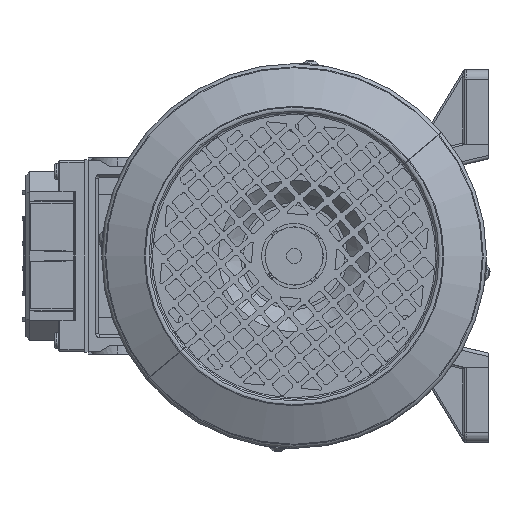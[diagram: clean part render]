
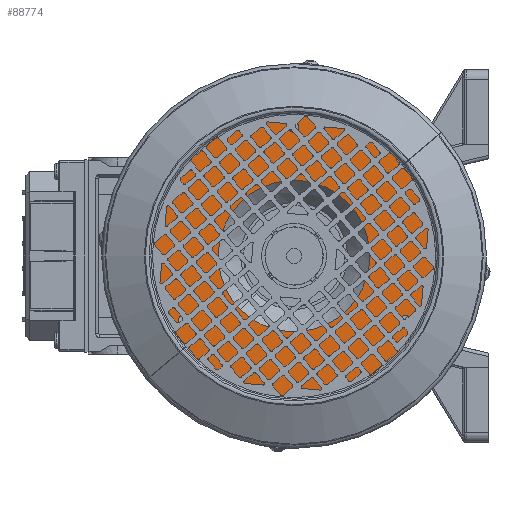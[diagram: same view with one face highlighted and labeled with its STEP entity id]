
A CAD part, left-side view. The second image highlights one B-rep face of the part: STEP entity #88774.
In plain terms, the highlighted planar face has unit normal (-1, 0, 0) as drawn and (0, 1, 0) by its records, which use the part's own axes.
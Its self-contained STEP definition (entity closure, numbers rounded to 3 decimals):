
#142 = CIRCLE ( 'NONE', #13714, 2.5 ) ;
#3993 = VERTEX_POINT ( 'NONE', #75739 ) ;
#4015 = CARTESIAN_POINT ( 'NONE',  ( -46.669, 44., -46.669 ) ) ;
#8732 = EDGE_CURVE ( 'NONE', #75903, #83189, #109008, .T. ) ;
#9618 = ORIENTED_EDGE ( 'NONE', *, *, #84662, .T. ) ;
#10420 = ORIENTED_EDGE ( 'NONE', *, *, #94962, .F. ) ;
#10504 = CARTESIAN_POINT ( 'NONE',  ( -17.082, 44., 61.251 ) ) ;
#12123 = ORIENTED_EDGE ( 'NONE', *, *, #42199, .F. ) ;
#12738 = DIRECTION ( 'NONE',  ( 0., 0., 1. ) ) ;
#13205 = EDGE_LOOP ( 'NONE', ( #9618, #80707 ) ) ;
#13714 = AXIS2_PLACEMENT_3D ( 'NONE', #4015, #64641, #12738 ) ;
#16964 = ORIENTED_EDGE ( 'NONE', *, *, #100721, .F. ) ;
#22521 = DIRECTION ( 'NONE',  ( 0., 1., 0. ) ) ;
#22723 = FACE_BOUND ( 'NONE', #52144, .T. ) ;
#23672 = CARTESIAN_POINT ( 'NONE',  ( -46.669, 44., -44.169 ) ) ;
#23989 = CARTESIAN_POINT ( 'NONE',  ( 39., 44., 0. ) ) ;
#24237 = VERTEX_POINT ( 'NONE', #23672 ) ;
#24885 = CARTESIAN_POINT ( 'NONE',  ( 0., 44., -39. ) ) ;
#24906 = CIRCLE ( 'NONE', #100535, 77.5 ) ;
#26621 = AXIS2_PLACEMENT_3D ( 'NONE', #35512, #96127, #44251 ) ;
#30136 = CARTESIAN_POINT ( 'NONE',  ( 0., 44., 0. ) ) ;
#30499 = AXIS2_PLACEMENT_3D ( 'NONE', #23989, #84641, #32760 ) ;
#31214 = CIRCLE ( 'NONE', #96525, 2.5 ) ;
#32632 = CIRCLE ( 'NONE', #26621, 2.5 ) ;
#32760 = DIRECTION ( 'NONE',  ( 0., 0., -1. ) ) ;
#32812 = VERTEX_POINT ( 'NONE', #36560 ) ;
#33147 = AXIS2_PLACEMENT_3D ( 'NONE', #90647, #38751, #99411 ) ;
#33544 = CARTESIAN_POINT ( 'NONE',  ( 0., 44., 0. ) ) ;
#33644 = EDGE_CURVE ( 'NONE', #3993, #63371, #94351, .T. ) ;
#35330 = CARTESIAN_POINT ( 'NONE',  ( 63.751, 44., -17.082 ) ) ;
#35512 = CARTESIAN_POINT ( 'NONE',  ( -46.669, 44., -46.669 ) ) ;
#35817 = CIRCLE ( 'NONE', #80119, 39. ) ;
#36560 = CARTESIAN_POINT ( 'NONE',  ( -46.669, 44., -49.169 ) ) ;
#37402 = CARTESIAN_POINT ( 'NONE',  ( 0., 44., -77.5 ) ) ;
#38751 = DIRECTION ( 'NONE',  ( 0., 1., 0. ) ) ;
#38831 = DIRECTION ( 'NONE',  ( 0., 0., 1. ) ) ;
#41740 = AXIS2_PLACEMENT_3D ( 'NONE', #74461, #22521, #83170 ) ;
#42199 = EDGE_CURVE ( 'NONE', #107387, #79564, #73110, .T. ) ;
#42249 = DIRECTION ( 'NONE',  ( 0., 0., 1. ) ) ;
#44062 = DIRECTION ( 'NONE',  ( 0., 0., 1. ) ) ;
#44251 = DIRECTION ( 'NONE',  ( 0., 0., 1. ) ) ;
#45840 = FACE_BOUND ( 'NONE', #101631, .T. ) ;
#45915 = ORIENTED_EDGE ( 'NONE', *, *, #68623, .F. ) ;
#46476 = CIRCLE ( 'NONE', #41740, 2.5 ) ;
#47481 = DIRECTION ( 'NONE',  ( 0., 1., 0. ) ) ;
#48538 = FACE_BOUND ( 'NONE', #62760, .T. ) ;
#50477 = CARTESIAN_POINT ( 'NONE',  ( 0., 44., 0. ) ) ;
#50759 = CARTESIAN_POINT ( 'NONE',  ( 0., 44., 0. ) ) ;
#52144 = EDGE_LOOP ( 'NONE', ( #16964, #12123 ) ) ;
#56113 = ORIENTED_EDGE ( 'NONE', *, *, #33644, .F. ) ;
#59200 = DIRECTION ( 'NONE',  ( 0., 0., 1. ) ) ;
#59470 = DIRECTION ( 'NONE',  ( 0., 0., 1. ) ) ;
#62760 = EDGE_LOOP ( 'NONE', ( #86934, #45915 ) ) ;
#63371 = VERTEX_POINT ( 'NONE', #24885 ) ;
#64641 = DIRECTION ( 'NONE',  ( 0., 1., 0. ) ) ;
#66135 = FACE_OUTER_BOUND ( 'NONE', #13205, .T. ) ;
#66159 = AXIS2_PLACEMENT_3D ( 'NONE', #30136, #90731, #38831 ) ;
#67741 = EDGE_CURVE ( 'NONE', #91734, #75834, #72453, .T. ) ;
#68173 = AXIS2_PLACEMENT_3D ( 'NONE', #50759, #111534, #59470 ) ;
#68623 = EDGE_CURVE ( 'NONE', #32812, #24237, #32632, .T. ) ;
#72453 = CIRCLE ( 'NONE', #33147, 2.5 ) ;
#73110 = CIRCLE ( 'NONE', #85859, 2.5 ) ;
#74461 = CARTESIAN_POINT ( 'NONE',  ( -17.082, 44., 63.751 ) ) ;
#75739 = CARTESIAN_POINT ( 'NONE',  ( 0., 44., 39. ) ) ;
#75834 = VERTEX_POINT ( 'NONE', #10504 ) ;
#75903 = VERTEX_POINT ( 'NONE', #37402 ) ;
#76232 = CARTESIAN_POINT ( 'NONE',  ( 63.751, 44., -14.582 ) ) ;
#79564 = VERTEX_POINT ( 'NONE', #76232 ) ;
#80119 = AXIS2_PLACEMENT_3D ( 'NONE', #33544, #94129, #42249 ) ;
#80707 = ORIENTED_EDGE ( 'NONE', *, *, #8732, .T. ) ;
#81222 = ORIENTED_EDGE ( 'NONE', *, *, #67741, .F. ) ;
#82146 = CARTESIAN_POINT ( 'NONE',  ( 63.751, 44., -19.582 ) ) ;
#83170 = DIRECTION ( 'NONE',  ( 0., 0., 1. ) ) ;
#83189 = VERTEX_POINT ( 'NONE', #96043 ) ;
#84641 = DIRECTION ( 'NONE',  ( 0., -1., 0. ) ) ;
#84662 = EDGE_CURVE ( 'NONE', #83189, #75903, #24906, .T. ) ;
#85537 = EDGE_CURVE ( 'NONE', #75834, #91734, #46476, .T. ) ;
#85859 = AXIS2_PLACEMENT_3D ( 'NONE', #99416, #47481, #108215 ) ;
#86934 = ORIENTED_EDGE ( 'NONE', *, *, #99992, .F. ) ;
#88774 = ADVANCED_FACE ( 'NONE', ( #48538, #45840, #112421, #66135, #22723 ), #101755, .F. ) ;
#90647 = CARTESIAN_POINT ( 'NONE',  ( -17.082, 44., 63.751 ) ) ;
#90731 = DIRECTION ( 'NONE',  ( 0., 1., 0. ) ) ;
#91734 = VERTEX_POINT ( 'NONE', #101436 ) ;
#94129 = DIRECTION ( 'NONE',  ( 0., 1., 0. ) ) ;
#94351 = CIRCLE ( 'NONE', #68173, 39. ) ;
#94962 = EDGE_CURVE ( 'NONE', #63371, #3993, #35817, .T. ) ;
#95935 = DIRECTION ( 'NONE',  ( 0., 1., 0. ) ) ;
#96043 = CARTESIAN_POINT ( 'NONE',  ( 0., 44., 77.5 ) ) ;
#96127 = DIRECTION ( 'NONE',  ( 0., 1., 0. ) ) ;
#96525 = AXIS2_PLACEMENT_3D ( 'NONE', #35330, #95935, #44062 ) ;
#99411 = DIRECTION ( 'NONE',  ( 0., 0., 1. ) ) ;
#99416 = CARTESIAN_POINT ( 'NONE',  ( 63.751, 44., -17.082 ) ) ;
#99992 = EDGE_CURVE ( 'NONE', #24237, #32812, #142, .T. ) ;
#100535 = AXIS2_PLACEMENT_3D ( 'NONE', #50477, #111261, #59200 ) ;
#100721 = EDGE_CURVE ( 'NONE', #79564, #107387, #31214, .T. ) ;
#101436 = CARTESIAN_POINT ( 'NONE',  ( -17.082, 44., 66.251 ) ) ;
#101631 = EDGE_LOOP ( 'NONE', ( #81222, #103061 ) ) ;
#101755 = PLANE ( 'NONE',  #30499 ) ;
#103061 = ORIENTED_EDGE ( 'NONE', *, *, #85537, .F. ) ;
#107387 = VERTEX_POINT ( 'NONE', #82146 ) ;
#108215 = DIRECTION ( 'NONE',  ( 0., 0., 1. ) ) ;
#109008 = CIRCLE ( 'NONE', #66159, 77.5 ) ;
#110334 = EDGE_LOOP ( 'NONE', ( #56113, #10420 ) ) ;
#111261 = DIRECTION ( 'NONE',  ( 0., 1., 0. ) ) ;
#111534 = DIRECTION ( 'NONE',  ( 0., 1., 0. ) ) ;
#112421 = FACE_BOUND ( 'NONE', #110334, .T. ) ;
